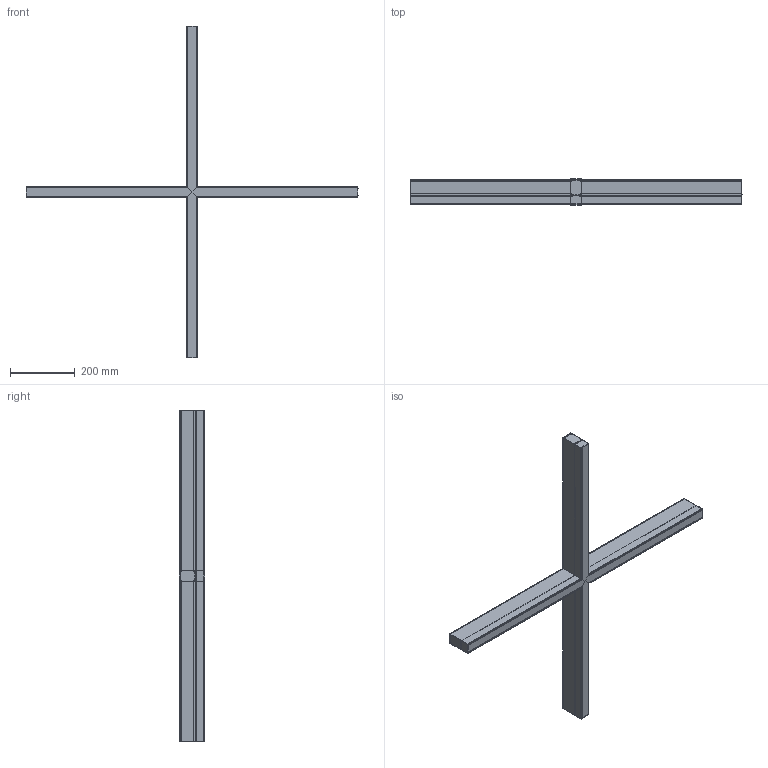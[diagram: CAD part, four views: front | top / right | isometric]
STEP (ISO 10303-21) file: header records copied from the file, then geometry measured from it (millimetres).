
FILE_DESCRIPTION(('STEP AP203'), '1');
FILE_NAME('Ìàòèê Êðîñ 40Âò', '', ('UNSPECIFIED'), ('UNSPECIFIED'), 'ASCON STEP Converter 1.6', 'ASCON Math Kernel', '');
FILE_SCHEMA(('CONFIG_CONTROL_DESIGN'));
Length unit declared in the file: millimetre
Products named in the file (4): -01
Assembly tree (8 placements, depth 3):
  (unnamed)
    (unnamed)
      (unnamed)  x2
    -01  x3
      (unnamed)
Bounding box: 1024.3 x 80 x 1024.3 mm (x, y, z)
Volume: 811735.9 mm3; surface area: 1276139.1 mm2
Topology: 21 solids, 21 shells, 987 faces, 2791 edges, 1880 vertices
Faces by surface type: plane 484, cylinder 429, bspline 32, cone 24, torus 18
Full cylindrical faces by diameter (mm): 2.9 x8, 6.3 x8, 8 x1, 10 x2, 14 x2
Entity records: 14554 total; most frequent: CARTESIAN_POINT 3213, ORIENTED_EDGE 2402, DIRECTION 2114, EDGE_CURVE 1201, VERTEX_POINT 809, LINE 754, VECTOR 754, AXIS2_PLACEMENT_3D 680
